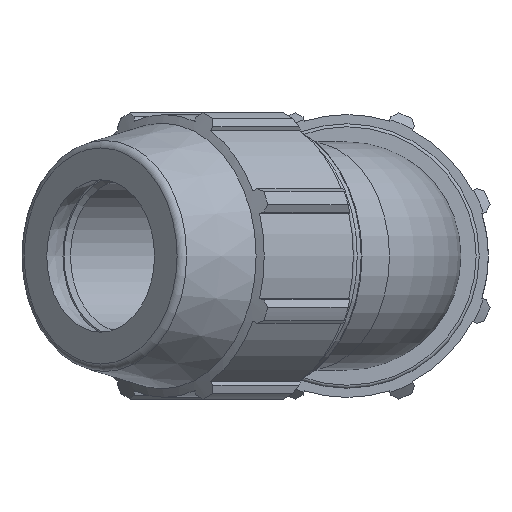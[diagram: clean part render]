
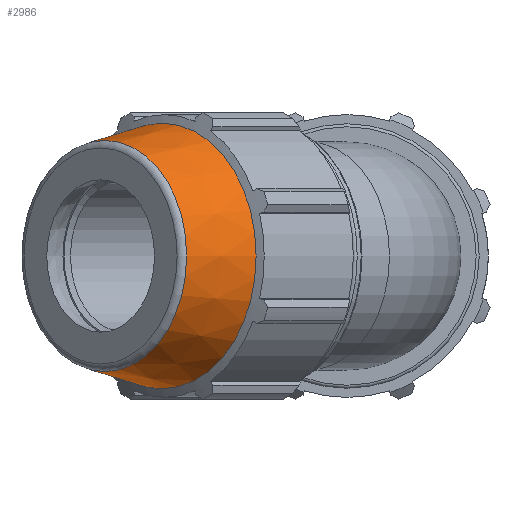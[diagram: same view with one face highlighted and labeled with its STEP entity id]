
A CAD part, left-side view. The second image highlights one B-rep face of the part: STEP entity #2986.
In plain terms, the highlighted conical face has half-angle 12 degrees and reference radius 38.997 mm.
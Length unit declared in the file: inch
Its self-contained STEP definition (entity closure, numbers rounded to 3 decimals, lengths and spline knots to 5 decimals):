
#342=LINE('',#5121,#550);
#550=VECTOR('',#4115,1.53532);
#640=CONICAL_SURFACE('',#3307,1.53532,0.209);
#782=FACE_OUTER_BOUND('',#936,.T.);
#936=EDGE_LOOP('',(#2628,#2629,#2630,#2631,#2632,#2633,#2634));
#1058=CIRCLE('',#3236,1.65037);
#1059=CIRCLE('',#3237,1.65037);
#1095=CIRCLE('',#3303,1.43622);
#1096=CIRCLE('',#3304,1.43622);
#1097=CIRCLE('',#3305,1.43622);
#1340=VERTEX_POINT('',#4945);
#1341=VERTEX_POINT('',#4946);
#1391=VERTEX_POINT('',#5112);
#1392=VERTEX_POINT('',#5114);
#1393=VERTEX_POINT('',#5116);
#1730=EDGE_CURVE('',#1340,#1341,#1058,.T.);
#1731=EDGE_CURVE('',#1341,#1340,#1059,.T.);
#1817=EDGE_CURVE('',#1391,#1392,#1095,.T.);
#1818=EDGE_CURVE('',#1392,#1393,#1096,.T.);
#1819=EDGE_CURVE('',#1393,#1391,#1097,.T.);
#1821=EDGE_CURVE('',#1392,#1341,#342,.T.);
#2628=ORIENTED_EDGE('',*,*,#1819,.F.);
#2629=ORIENTED_EDGE('',*,*,#1818,.F.);
#2630=ORIENTED_EDGE('',*,*,#1821,.T.);
#2631=ORIENTED_EDGE('',*,*,#1731,.T.);
#2632=ORIENTED_EDGE('',*,*,#1730,.T.);
#2633=ORIENTED_EDGE('',*,*,#1821,.F.);
#2634=ORIENTED_EDGE('',*,*,#1817,.F.);
#2986=ADVANCED_FACE('',(#782),#640,.T.);
#3236=AXIS2_PLACEMENT_3D('',#4947,#3921,#3922);
#3237=AXIS2_PLACEMENT_3D('',#4948,#3923,#3924);
#3303=AXIS2_PLACEMENT_3D('',#5115,#4105,#4106);
#3304=AXIS2_PLACEMENT_3D('',#5117,#4107,#4108);
#3305=AXIS2_PLACEMENT_3D('',#5118,#4109,#4110);
#3307=AXIS2_PLACEMENT_3D('',#5120,#4113,#4114);
#3921=DIRECTION('center_axis',(-0.707,0.707,0.));
#3922=DIRECTION('ref_axis',(0.,0.,-1.));
#3923=DIRECTION('center_axis',(-0.707,0.707,0.));
#3924=DIRECTION('ref_axis',(0.,0.,-1.));
#4105=DIRECTION('center_axis',(-0.707,0.707,0.));
#4106=DIRECTION('ref_axis',(0.707,0.707,0.));
#4107=DIRECTION('center_axis',(-0.707,0.707,0.));
#4108=DIRECTION('ref_axis',(0.707,0.707,0.));
#4109=DIRECTION('center_axis',(-0.707,0.707,0.));
#4110=DIRECTION('ref_axis',(0.707,0.707,0.));
#4113=DIRECTION('center_axis',(0.707,-0.707,0.));
#4114=DIRECTION('ref_axis',(-0.707,-0.707,0.));
#4115=DIRECTION('',(0.839,-0.545,0.));
#4945=CARTESIAN_POINT('',(-3.46332,1.12934,0.));
#4946=CARTESIAN_POINT('',(-1.12934,3.46332,0.));
#4947=CARTESIAN_POINT('Origin',(-2.29633,2.29633,0.));
#4948=CARTESIAN_POINT('Origin',(-2.29633,2.29633,0.));
#5112=CARTESIAN_POINT('',(-3.00874,3.00874,1.43622));
#5114=CARTESIAN_POINT('',(-1.99318,4.0243,0.));
#5115=CARTESIAN_POINT('Origin',(-3.00874,3.00874,0.));
#5116=CARTESIAN_POINT('',(-4.0243,1.99318,0.));
#5117=CARTESIAN_POINT('Origin',(-3.00874,3.00874,0.));
#5118=CARTESIAN_POINT('Origin',(-3.00874,3.00874,0.));
#5120=CARTESIAN_POINT('Origin',(-2.67905,2.67905,0.));
#5121=CARTESIAN_POINT('',(-1.59341,3.76469,0.));
